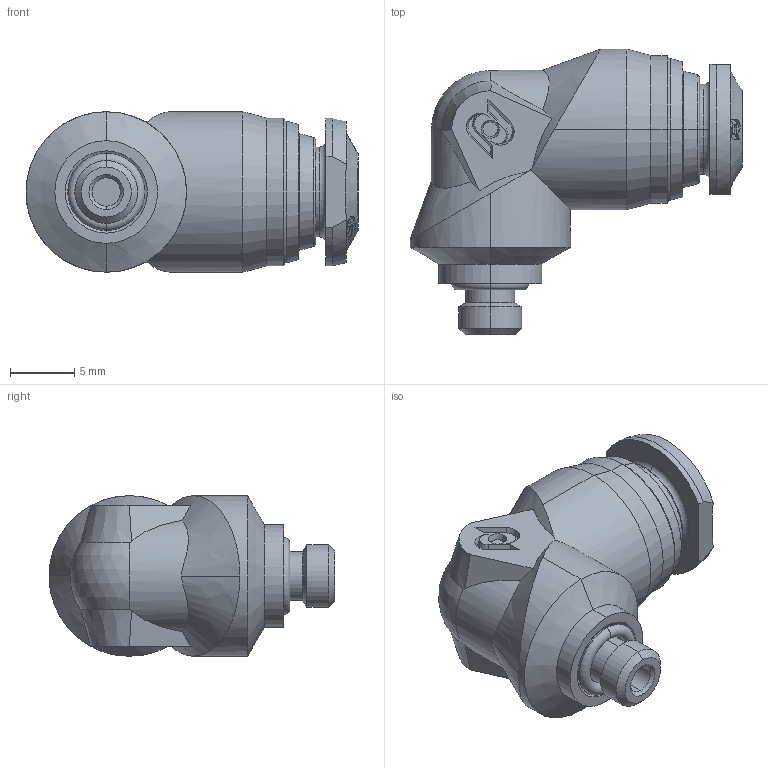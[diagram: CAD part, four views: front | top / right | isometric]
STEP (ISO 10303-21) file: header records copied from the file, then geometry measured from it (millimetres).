
FILE_DESCRIPTION (( 'STEP AP214' ), '1' );
FILE_NAME ('5010000010.step', '2012-10-01T16:43:46', ( '' ), ( '' ), 'SwSTEP 2.0', 'SolidWorks 2012', '' );
FILE_SCHEMA (( 'AUTOMOTIVE_DESIGN' ));
Length unit declared in the file: millimetre
Products named in the file (1): 5010000010
Bounding box: 25.85 x 22.25 x 12.5 mm (x, y, z)
Volume: 2753.9 mm3; surface area: 1800.2 mm2
Topology: 1 solids, 2 shells, 298 faces, 779 edges, 511 vertices
Faces by surface type: bspline 130, cone 68, plane 44, cylinder 35, torus 20, sphere 1
Entity records: 20528 total; most frequent: CARTESIAN_POINT 11073, ORIENTED_EDGE 1558, DIRECTION 805, EDGE_CURVE 779, VERTEX_POINT 511, B_SPLINE_CURVE_WITH_KNOTS 465, AXIS2_PLACEMENT_3D 335, EDGE_LOOP 326
